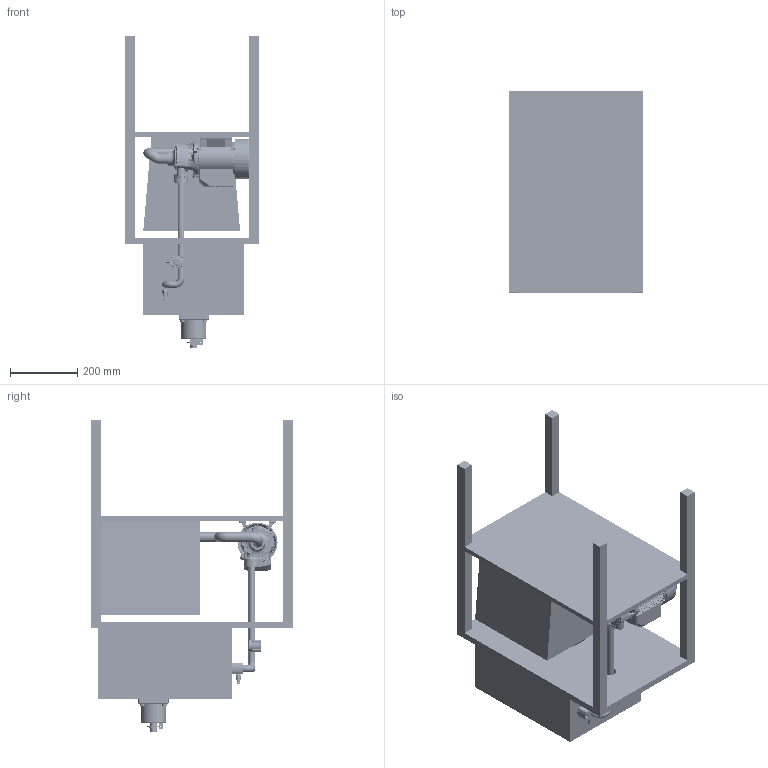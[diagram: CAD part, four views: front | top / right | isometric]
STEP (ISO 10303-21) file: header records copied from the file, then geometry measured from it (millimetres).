
FILE_DESCRIPTION(/* description */ (''),/* implementation_level */ '2;1');
FILE_NAME(/* name */ 'Assieme_banco_pelton_radiali3.stp',/* time_stamp */ '2025-04-03T20:35:35+02:00',/* author */ ('R5800u'),/* organization */ (''),/* preprocessor_version */ 'ST-DEVELOPER v20',/* originating_system */ 'Autodesk Inventor 2025',/* authorisation */ '');
FILE_SCHEMA (('AUTOMOTIVE_DESIGN { 1 0 10303 214 3 1 1 }'));
Products named in the file (83): Assieme_banco_pelton_radiali2; Assieme_turgo_frame; Assieme2; frame_superficie; SOLID; tslot-20x20-3; tslot-20x20-2; tslot-20x20-3_MIR1; SNSD20x20; SNSD20x20_MIR; tslot-20x20-2_MIR1; lastra_top; lastra_laterale1; lastra_laterale3; lastra_laterale2; tslot 2040; tavolo; PERIPHERAL WATER PUMP; CASING WITH WOUND STATOR; TERMINAL COVER; BOLT(4); FAN COVER; FAIRLEAD; PUMP CASING; CHARGE PLUG; CAPACITOR; SHAFT; FAN; TAPON TRANSPARENTE; ROTOR; PUMP SUPPORT; IMPELLER; DRIVING CAP; O RING (2); BOLT(3); EMPAQUE UNION; DROPS GUARD; EMPAQUE2-3; EMPAQUE2-2; MECHANICAL SEAL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
Assembly tree (199 placements, depth 4):
  Assieme_banco_pelton_radiali2
    Assieme_turgo_frame
      Assieme2
        frame_superficie
        SOLID  x4
        tslot-20x20-3  x2
        tslot-20x20-2  x2
        tslot-20x20-3_MIR1  x2
        SNSD20x20  x8
        SNSD20x20_MIR  x8
        tslot-20x20-2_MIR1  x2
      lastra_top
      lastra_laterale1  x2
      lastra_laterale3
      lastra_laterale2
      tslot 2040
    %3% BS 290 - SKF 61804  x2
    tavolo
    PERIPHERAL WATER PUMP
      CASING WITH WOUND STATOR
      TERMINAL COVER
      BOLT(4)  x2
      FAN COVER
      FAIRLEAD
      PUMP CASING
      CHARGE PLUG
      CAPACITOR
      SHAFT
      FAN
      TAPON TRANSPARENTE  x2
      ROTOR
      PUMP SUPPORT
      IMPELLER
      DRIVING CAP
      O RING (2)
      BOLT(3)  x3
      BOLT(2)  x6
      EMPAQUE UNION
      DROPS GUARD
        EMPAQUE2-3
        EMPAQUE2-2
      MECHANICAL SEAL
        PARTE 2 EMPAQUE
        PARTE 1 EMPAQUE
        PARTE 3 EMPAQUE
        PARTE 4 EMPAQUE
        WASHER
      SNAP RING
      BEARING  x2
      COIL
        PLACA ENBOBINADO  x56
        Pieza3^COIL
        Pieza1^COIL
      CABLE PRESSER
      SCREW  x3
      O RING
      KEY
      RESORTE
      SPLIT RING
    bacinella
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Bounding box: 400 x 600 x 928 mm (x, y, z)
Volume: 15916626 mm3; surface area: 5089627.5 mm2
Topology: 1687 solids, 1687 shells, 22703 faces, 55831 edges, 36490 vertices
Faces by surface type: cylinder 10240, plane 9753, bspline 1692, torus 460, cone 439, sphere 119
Full cylindrical faces by diameter (mm): 0.08 x19, 0.5 x1, 0.596 x1440, 1 x4, 1.3 x75, 1.5 x2, 1.8 x1, 2 x2, 2.65 x2, 2.69 x3, 2.7 x1, 2.8 x11, 2.845 x76, 3 x6, 3.2 x5, 3.242 x2, 3.4 x114, 3.9 x3, 4 x4, 4.2 x12, 4.3 x12, 4.35 x2, 4.5 x6, 4.6 x2, 5 x29, 5.2 x2, 5.3 x4, 5.563 x4, 5.7 x4, 6.3 x1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
Entity records: 378803 total; most frequent: CARTESIAN_POINT 155463, DIRECTION 46365, ORIENTED_EDGE 41504, EDGE_CURVE 20752, AXIS2_PLACEMENT_3D 18072, VERTEX_POINT 13497, EDGE_LOOP 11567, FACE_OUTER_BOUND 10600
